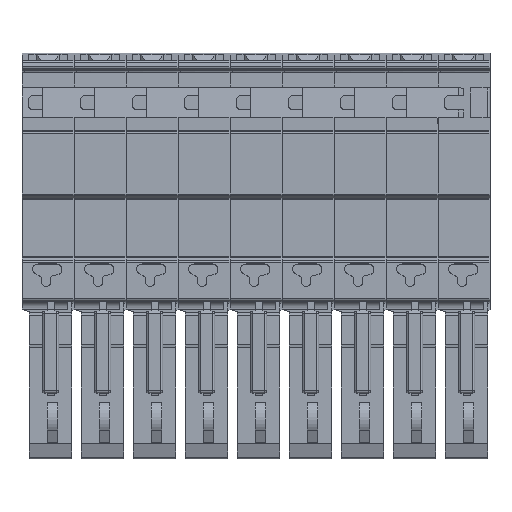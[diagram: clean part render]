
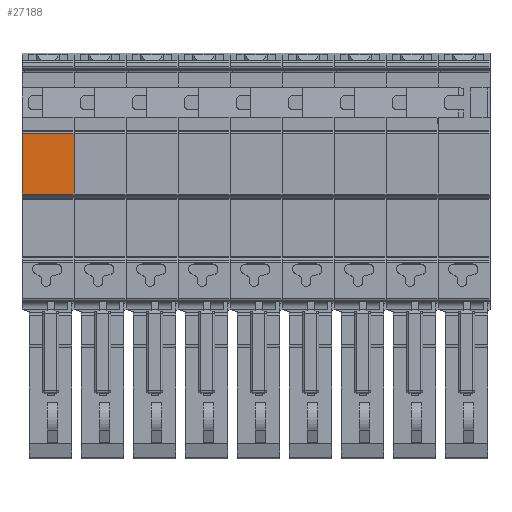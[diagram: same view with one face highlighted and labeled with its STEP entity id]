
A CAD part, top view. The second image highlights one B-rep face of the part: STEP entity #27188.
In plain terms, the highlighted planar face has unit normal (0, 0, 1).
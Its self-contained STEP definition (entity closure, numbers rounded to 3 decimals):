
#1665 = EDGE_CURVE ( 'NONE', #24199, #8632, #7017, .T. ) ;
#1673 = FACE_OUTER_BOUND ( 'NONE', #26256, .T. ) ;
#2825 = LINE ( 'NONE', #14713, #12021 ) ;
#2876 = AXIS2_PLACEMENT_3D ( 'NONE', #9498, #6938, #26500 ) ;
#4629 = CARTESIAN_POINT ( 'NONE',  ( 2.575, 6.119, 8. ) ) ;
#4926 = ORIENTED_EDGE ( 'NONE', *, *, #7382, .T. ) ;
#5987 = ORIENTED_EDGE ( 'NONE', *, *, #25734, .T. ) ;
#6463 = DIRECTION ( 'NONE',  ( 0., -1., 0. ) ) ;
#6938 = DIRECTION ( 'NONE',  ( 0., 0., -1. ) ) ;
#7017 = LINE ( 'NONE', #4629, #30729 ) ;
#7382 = EDGE_CURVE ( 'NONE', #15102, #12515, #2825, .T. ) ;
#8632 = VERTEX_POINT ( 'NONE', #23434 ) ;
#9498 = CARTESIAN_POINT ( 'NONE',  ( 2.575, 6.119, 8. ) ) ;
#9880 = DIRECTION ( 'NONE',  ( -1., 0., 0. ) ) ;
#12021 = VECTOR ( 'NONE', #9880, 1000. ) ;
#12515 = VERTEX_POINT ( 'NONE', #26316 ) ;
#14415 = DIRECTION ( 'NONE',  ( -1., 0., 0. ) ) ;
#14713 = CARTESIAN_POINT ( 'NONE',  ( 2.575, 12.149, 8. ) ) ;
#15102 = VERTEX_POINT ( 'NONE', #18586 ) ;
#16185 = LINE ( 'NONE', #23400, #28881 ) ;
#16297 = CARTESIAN_POINT ( 'NONE',  ( 2.575, 6.119, 8. ) ) ;
#18586 = CARTESIAN_POINT ( 'NONE',  ( 2.575, 12.149, 8. ) ) ;
#18652 = LINE ( 'NONE', #28428, #29883 ) ;
#19931 = ORIENTED_EDGE ( 'NONE', *, *, #1665, .F. ) ;
#23400 = CARTESIAN_POINT ( 'NONE',  ( 2.575, 6.119, 8. ) ) ;
#23434 = CARTESIAN_POINT ( 'NONE',  ( -2.575, 6.119, 8. ) ) ;
#24199 = VERTEX_POINT ( 'NONE', #16297 ) ;
#25734 = EDGE_CURVE ( 'NONE', #12515, #8632, #18652, .T. ) ;
#25961 = DIRECTION ( 'NONE',  ( 0., -1., 0. ) ) ;
#25978 = EDGE_CURVE ( 'NONE', #15102, #24199, #16185, .T. ) ;
#26256 = EDGE_LOOP ( 'NONE', ( #5987, #19931, #28626, #4926 ) ) ;
#26316 = CARTESIAN_POINT ( 'NONE',  ( -2.575, 12.149, 8. ) ) ;
#26500 = DIRECTION ( 'NONE',  ( -1., 0., 0. ) ) ;
#27188 = ADVANCED_FACE ( 'NONE', ( #1673 ), #28427, .F. ) ;
#28427 = PLANE ( 'NONE',  #2876 ) ;
#28428 = CARTESIAN_POINT ( 'NONE',  ( -2.575, 6.119, 8. ) ) ;
#28626 = ORIENTED_EDGE ( 'NONE', *, *, #25978, .F. ) ;
#28881 = VECTOR ( 'NONE', #25961, 1000. ) ;
#29883 = VECTOR ( 'NONE', #6463, 1000. ) ;
#30729 = VECTOR ( 'NONE', #14415, 1000. ) ;
